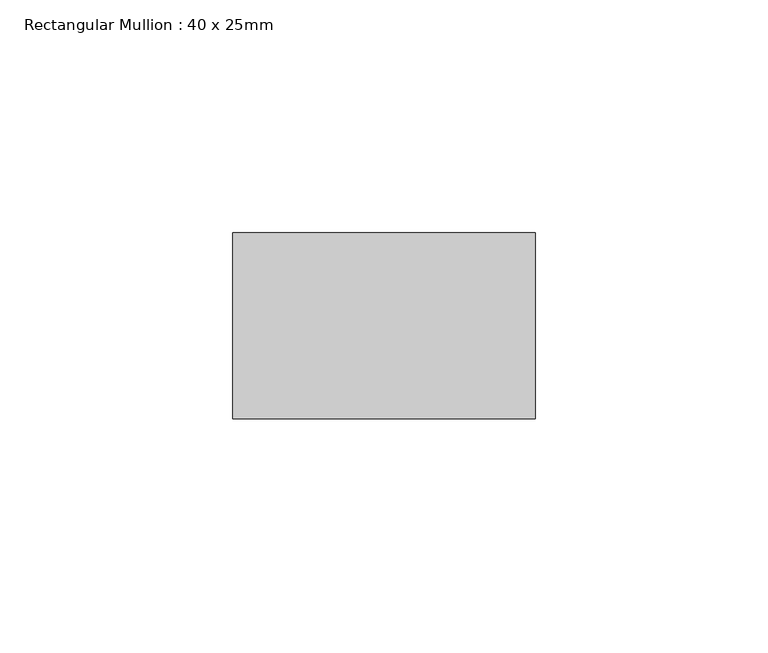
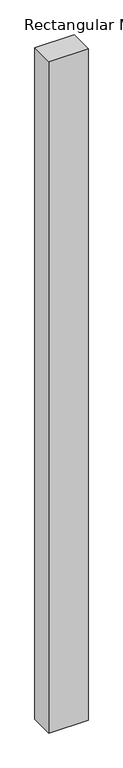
"""IFC4 building model written with IfcOpenShell, lengths in millimetres: member geometry, Rectangular Mullion : 40 x 25mm."""

from ifc_helpers import new_model, si_unit, frame, origin, place, context, project, spatial, polyline, outline, extrude, source, transform, mapped, element, save


def rectangular_mullion_40_x_25mm_2badbf1a(model_context):
    return source(origin(), model_context, "Body", "SweptSolid", [
        extrude(outline(polyline([(40.0, -20.0), (40.0, -60.0), (-25.0, -60.0), (-25.0, -20.0), (40.0, -20.0)])), frame((0.0, 0.0, -1177.0195689), z_axis=(0.0, 0.0, 1.0), x_axis=(1.0, 0.0, 0.0)), (0.0, 0.0, 1.0), 1177.0195689),
    ])


if __name__ == "__main__":
    model = new_model("IFC4")
    model_context = context("Model", 3, world=origin())
    ifc_project = project(units=[si_unit("LENGTHUNIT", "METRE", prefix="MILLI")], contexts=[model_context])
    site = spatial("IfcSite", under=ifc_project)
    building = spatial("IfcBuilding", under=site)
    placement = place(None, origin())
    rectangular_mullion_40_x_25mm_shape = rectangular_mullion_40_x_25mm_2badbf1a(model_context)
    element("IfcMember", 1, ObjectType="Rectangular Mullion : 40 x 25mm", at=placement, inside=building, context=model_context, shape_type="MappedRepresentation", body=[
        mapped(rectangular_mullion_40_x_25mm_shape, transform((0.0, 0.0, 0.0), x_axis=(1.0, 0.0, 0.0), y_axis=(0.0, 1.0, 0.0), z_axis=(0.0, 0.0, 1.0))),
    ])
    save(model, "model.ifc")
